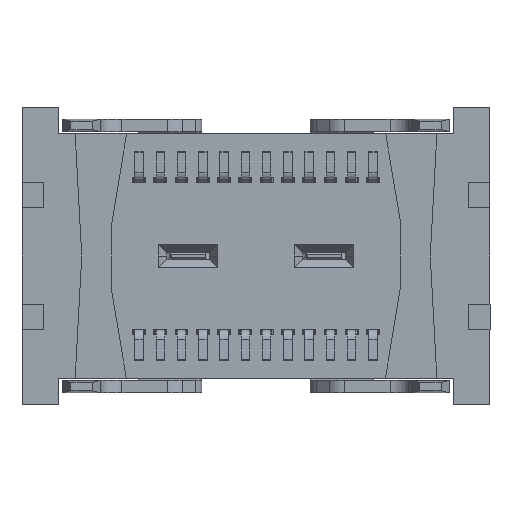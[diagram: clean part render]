
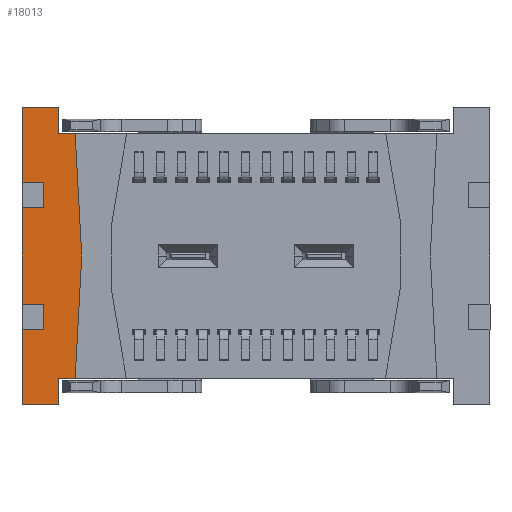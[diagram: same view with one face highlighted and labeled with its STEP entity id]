
A CAD part, front view. The second image highlights one B-rep face of the part: STEP entity #18013.
In plain terms, the highlighted planar face has unit normal (0, -1, 0).
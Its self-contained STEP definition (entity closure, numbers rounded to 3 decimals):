
#10004=CARTESIAN_POINT('',(20.25,3.3,-14.63));
#10005=VERTEX_POINT('',#10004);
#10012=CARTESIAN_POINT('',(20.65,3.3,-14.63));
#10013=VERTEX_POINT('',#10012);
#10014=CARTESIAN_POINT('',(20.25,3.3,-14.63));
#10015=DIRECTION('',(1.0,0.,0.0));
#10016=VECTOR('',#10015,1.0);
#10017=LINE('',#10014,#10016);
#10018=EDGE_CURVE('no 62691',#10005,#10013,#10017,.T.);
#15816=CARTESIAN_POINT('',(20.25,3.3,-21.0));
#15817=VERTEX_POINT('',#15816);
#15824=CARTESIAN_POINT('',(19.4,3.3,-21.0));
#15825=VERTEX_POINT('',#15824);
#15826=CARTESIAN_POINT('',(20.25,3.3,-21.0));
#15827=DIRECTION('',(-1.0,0.,0.0));
#15828=VECTOR('',#15827,1.0);
#15829=LINE('',#15826,#15828);
#15830=EDGE_CURVE('no 31655',#15817,#15825,#15829,.T.);
#15849=CARTESIAN_POINT('',(19.4,3.3,-19.235));
#15850=VERTEX_POINT('',#15849);
#15851=CARTESIAN_POINT('',(19.4,3.3,-19.235));
#15852=DIRECTION('',(0.0,-0.0,-1.0));
#15853=VECTOR('',#15852,1.0);
#15854=LINE('',#15851,#15853);
#15855=EDGE_CURVE('no 45318',#15850,#15825,#15854,.T.);
#15873=CARTESIAN_POINT('',(19.4,3.3,-18.635));
#15874=VERTEX_POINT('',#15873);
#15881=CARTESIAN_POINT('',(19.4,3.3,-16.365));
#15882=VERTEX_POINT('',#15881);
#15883=CARTESIAN_POINT('',(19.4,3.3,-18.635));
#15884=DIRECTION('',(0.,0.,1.0));
#15885=VECTOR('',#15884,1.0);
#15886=LINE('',#15883,#15885);
#15887=EDGE_CURVE('no 32594',#15874,#15882,#15886,.T.);
#15905=CARTESIAN_POINT('',(19.4,3.3,-15.765));
#15906=VERTEX_POINT('',#15905);
#15913=CARTESIAN_POINT('',(19.4,3.3,-14.0));
#15914=VERTEX_POINT('',#15913);
#15915=CARTESIAN_POINT('',(19.4,3.3,-15.765));
#15916=DIRECTION('',(0.,0.,1.0));
#15917=VECTOR('',#15916,1.0);
#15918=LINE('',#15915,#15917);
#15919=EDGE_CURVE('no 49648',#15906,#15914,#15918,.T.);
#15938=CARTESIAN_POINT('',(20.25,3.3,-14.0));
#15939=VERTEX_POINT('',#15938);
#15940=CARTESIAN_POINT('',(19.4,3.3,-14.0));
#15941=DIRECTION('',(1.0,0.,0.0));
#15942=VECTOR('',#15941,1.0);
#15943=LINE('',#15940,#15942);
#15944=EDGE_CURVE('no 73588',#15914,#15939,#15943,.T.);
#17901=CARTESIAN_POINT('',(20.25,3.3,-14.63));
#17902=DIRECTION('',(0.0,0.,1.0));
#17903=VECTOR('',#17902,1.0);
#17904=LINE('',#17901,#17903);
#17905=EDGE_CURVE('no 67943',#10005,#15939,#17904,.T.);
#17917=CARTESIAN_POINT('',(19.9,3.3,-18.635));
#17918=VERTEX_POINT('',#17917);
#17919=CARTESIAN_POINT('',(19.4,3.3,-18.635));
#17920=DIRECTION('',(1.0,0.,0.0));
#17921=VECTOR('',#17920,1.0);
#17922=LINE('',#17919,#17921);
#17923=EDGE_CURVE('no 5314',#15874,#17918,#17922,.T.);
#17924=ORIENTED_EDGE('no 19975',*,*,#17923,.T.);
#17925=CARTESIAN_POINT('',(19.9,3.3,-19.235));
#17926=VERTEX_POINT('',#17925);
#17927=CARTESIAN_POINT('',(19.9,3.3,-19.235));
#17928=DIRECTION('',(0.0,0.0,1.0));
#17929=VECTOR('',#17928,1.0);
#17930=LINE('',#17927,#17929);
#17931=EDGE_CURVE('no 74511',#17926,#17918,#17930,.T.);
#17932=ORIENTED_EDGE('no 64691',*,*,#17931,.F.);
#17933=CARTESIAN_POINT('',(19.4,3.3,-19.235));
#17934=DIRECTION('',(1.0,0.,0.0));
#17935=VECTOR('',#17934,1.0);
#17936=LINE('',#17933,#17935);
#17937=EDGE_CURVE('no 59198',#15850,#17926,#17936,.T.);
#17938=ORIENTED_EDGE('no 42835',*,*,#17937,.F.);
#17939=ORIENTED_EDGE('no 9127',*,*,#15855,.T.);
#17940=ORIENTED_EDGE('no 58137',*,*,#15830,.F.);
#17941=CARTESIAN_POINT('',(20.25,3.3,-20.37));
#17942=VERTEX_POINT('',#17941);
#17943=CARTESIAN_POINT('',(20.25,3.3,-20.37));
#17944=DIRECTION('',(0.0,-0.0,-1.0));
#17945=VECTOR('',#17944,1.0);
#17946=LINE('',#17943,#17945);
#17947=EDGE_CURVE('no 30066',#17942,#15817,#17946,.T.);
#17948=ORIENTED_EDGE('no 10137',*,*,#17947,.F.);
#17949=CARTESIAN_POINT('',(20.65,3.3,-20.37));
#17950=VERTEX_POINT('',#17949);
#17951=CARTESIAN_POINT('',(20.65,3.3,-20.37));
#17952=DIRECTION('',(-1.0,0.,-0.0));
#17953=VECTOR('',#17952,1.0);
#17954=LINE('',#17951,#17953);
#17955=EDGE_CURVE('no 72651',#17950,#17942,#17954,.T.);
#17956=ORIENTED_EDGE('no 29155',*,*,#17955,.F.);
#17957=CARTESIAN_POINT('',(20.8,3.3,-17.575));
#17958=VERTEX_POINT('',#17957);
#17959=CARTESIAN_POINT('',(20.8,3.3,-17.575));
#17960=DIRECTION('',(-0.054,0.,-0.999));
#17961=VECTOR('',#17960,1.0);
#17962=LINE('',#17959,#17961);
#17963=EDGE_CURVE('no 69194',#17958,#17950,#17962,.T.);
#17964=ORIENTED_EDGE('no 45691',*,*,#17963,.F.);
#17965=CARTESIAN_POINT('',(20.8,3.3,-17.425));
#17966=VERTEX_POINT('',#17965);
#17967=CARTESIAN_POINT('',(20.8,3.3,-17.575));
#17968=DIRECTION('',(0.,0.,1.0));
#17969=VECTOR('',#17968,1.0);
#17970=LINE('',#17967,#17969);
#17971=EDGE_CURVE('no 34060',#17958,#17966,#17970,.T.);
#17972=ORIENTED_EDGE('no 19114',*,*,#17971,.T.);
#17973=CARTESIAN_POINT('',(20.65,3.3,-14.63));
#17974=DIRECTION('',(0.054,0.,-0.999));
#17975=VECTOR('',#17974,1.0);
#17976=LINE('',#17973,#17975);
#17977=EDGE_CURVE('no 904',#10013,#17966,#17976,.T.);
#17978=ORIENTED_EDGE('no 21076',*,*,#17977,.F.);
#17979=ORIENTED_EDGE('no 14385',*,*,#10018,.F.);
#17980=ORIENTED_EDGE('no 27733',*,*,#17905,.T.);
#17981=ORIENTED_EDGE('no 52892',*,*,#15944,.F.);
#17982=ORIENTED_EDGE('no 41425',*,*,#15919,.F.);
#17983=CARTESIAN_POINT('',(19.9,3.3,-15.765));
#17984=VERTEX_POINT('',#17983);
#17985=CARTESIAN_POINT('',(19.4,3.3,-15.765));
#17986=DIRECTION('',(1.0,0.,0.0));
#17987=VECTOR('',#17986,1.0);
#17988=LINE('',#17985,#17987);
#17989=EDGE_CURVE('no 16130',#15906,#17984,#17988,.T.);
#17990=ORIENTED_EDGE('no 55257',*,*,#17989,.T.);
#17991=CARTESIAN_POINT('',(19.9,3.3,-16.365));
#17992=VERTEX_POINT('',#17991);
#17993=CARTESIAN_POINT('',(19.9,3.3,-16.365));
#17994=DIRECTION('',(0.0,0.0,1.0));
#17995=VECTOR('',#17994,1.0);
#17996=LINE('',#17993,#17995);
#17997=EDGE_CURVE('no 74655',#17992,#17984,#17996,.T.);
#17998=ORIENTED_EDGE('no 12237',*,*,#17997,.F.);
#17999=CARTESIAN_POINT('',(19.4,3.3,-16.365));
#18000=DIRECTION('',(1.0,0.,0.0));
#18001=VECTOR('',#18000,1.0);
#18002=LINE('',#17999,#18001);
#18003=EDGE_CURVE('no 34448',#15882,#17992,#18002,.T.);
#18004=ORIENTED_EDGE('no 59256',*,*,#18003,.F.);
#18005=ORIENTED_EDGE('no 74402',*,*,#15887,.F.);
#18006=EDGE_LOOP('',(
    #17924,#17932,#17938,#17939,#17940,#17948,#17956,#17964,#17972,#17978,
    #17979,#17980,#17981,#17982,#17990,#17998,#18004,#18005));
#18007=FACE_OUTER_BOUND('',#18006,.T.);
#18008=CARTESIAN_POINT('',(20.65,3.3,-20.37));
#18009=DIRECTION('',(0.,-1.0,0.0));
#18010=DIRECTION('',(0.0,0.0,-1.0));
#18011=AXIS2_PLACEMENT_3D('',#18008,#18009,#18010);
#18012=PLANE('',#18011);
#18013=ADVANCED_FACE('no 50951',(#18007),#18012,.T.);
